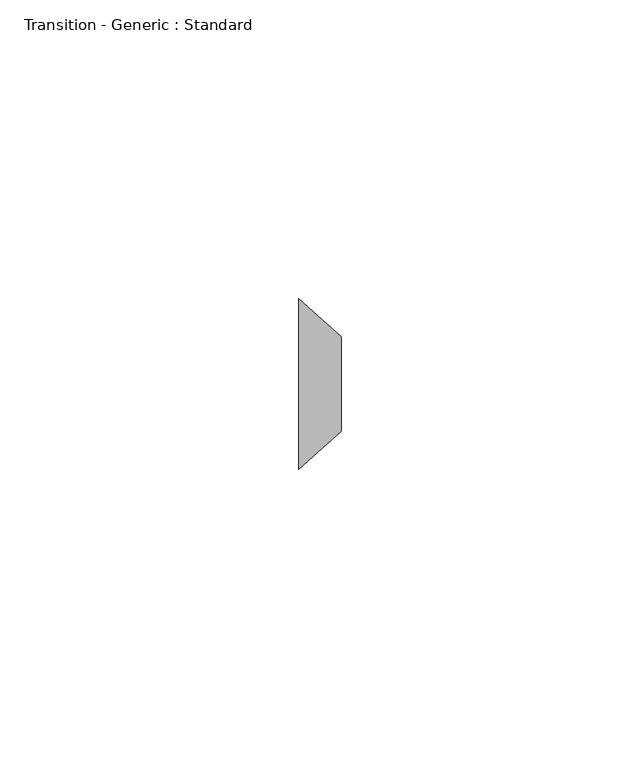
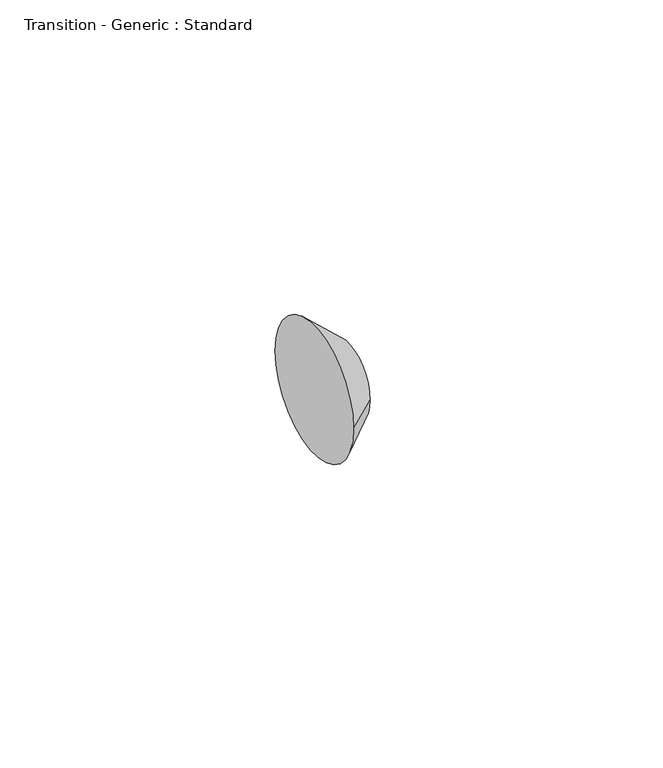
"""IFC4 building model written with IfcOpenShell, lengths in millimetres: pipe fitting geometry, Transition - Generic : Standard."""

from ifc_helpers import new_model, si_unit, frame, origin, place, context, project, spatial, polyline, circle_curve, source, transform, mapped, element, save
from ifc_brep_helpers import plane_surface, revolved_surface, advanced_brep


def transition_generic_standard_19d9bb8b(model_context):
    return source(origin(), model_context, "Body", "AdvancedBrep", [
        advanced_brep(
        [(7.14375, -7.9375, 0.0), (7.14375, 7.9375, 0.0), (0.0, -14.2875, 0.0), (0.0, 14.2875, 0.0)],
        [
            (0, 1, circle_curve(frame((7.14375, 0.0, 0.0), z_axis=(1.0, 0.0, 0.0), x_axis=(0.0, -1.0, 0.0)), 7.9375)),
            (1, 0, circle_curve(frame((7.14375, 0.0, 0.0), z_axis=(1.0, 0.0, 0.0), x_axis=(0.0, 1.0, 0.0)), 7.9375)),
            (2, 3, circle_curve(frame((0.0, 0.0, 0.0), z_axis=(-1.0, 0.0, 0.0), x_axis=(0.0, 1.0, 0.0)), 14.2875)),
            (3, 2, circle_curve(frame((0.0, 0.0, 0.0), z_axis=(-1.0, 0.0, 0.0), x_axis=(0.0, -1.0, 0.0)), 14.2875)),
            (3, 1),
            (0, 2),
        ],
        [
            plane_surface(frame((7.14375, 0.0, 0.0), z_axis=(1.0, 0.0, 0.0), x_axis=(0.0, 0.0, -1.0))),
            plane_surface(frame((0.0, 0.0, 0.0), z_axis=(-1.0, 0.0, 0.0), x_axis=(0.0, 0.0, -1.0))),
            revolved_surface(polyline([(7.143750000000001, -7.9375, 0.0), (0.0, -14.2875, 0.0)]), (16.0734375, 0.0, 0.0), (-1.0, 0.0, 0.0)),
            revolved_surface(polyline([(7.143750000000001, 7.9375, 0.0), (0.0, 14.2875, 0.0)]), (16.0734375, 0.0, 0.0), (-1.0, 0.0, 0.0)),
        ],
        [
            (0, [[1, 2]]),
            (1, [[3, 4]]),
            (2, [[-4, 5, -1, 6]]),
            (3, [[-3, -6, -2, -5]]),
        ],
    ),
    ])


if __name__ == "__main__":
    model = new_model("IFC4")
    model_context = context("Model", 3, world=origin())
    ifc_project = project(units=[si_unit("LENGTHUNIT", "METRE", prefix="MILLI")], contexts=[model_context])
    site = spatial("IfcSite", under=ifc_project)
    building = spatial("IfcBuilding", under=site)
    placement = place(None, origin())
    transition_generic_standard_shape = transition_generic_standard_19d9bb8b(model_context)
    element("IfcPipeFitting", 1, ObjectType="Transition - Generic : Standard", at=placement, inside=building, context=model_context, shape_type="MappedRepresentation", body=[
        mapped(transition_generic_standard_shape, transform((0.0, 0.0, 0.0), x_axis=(1.0, 0.0, 0.0), y_axis=(0.0, 1.0, 0.0), z_axis=(0.0, 0.0, 1.0))),
    ])
    save(model, "model.ifc")
